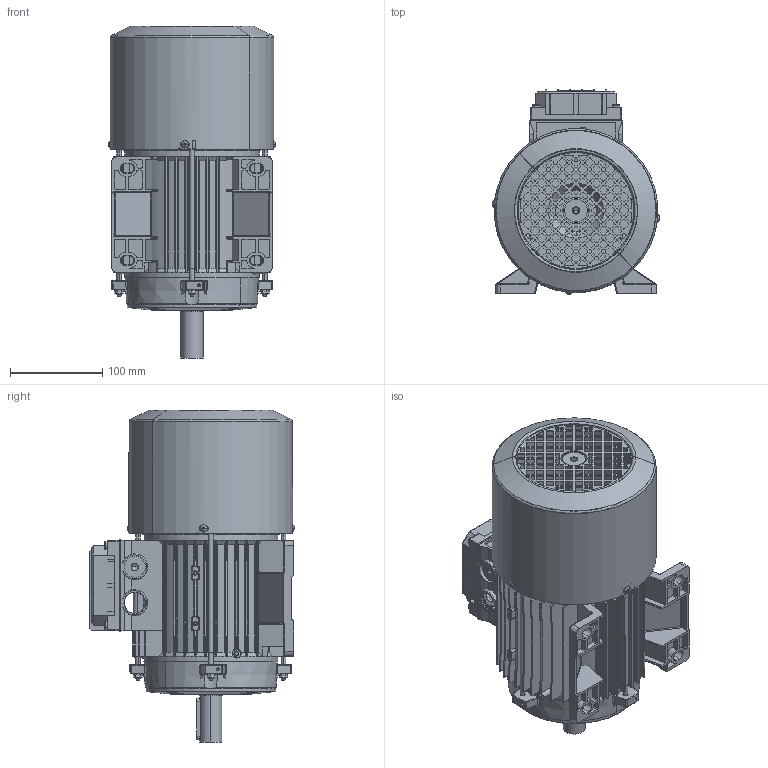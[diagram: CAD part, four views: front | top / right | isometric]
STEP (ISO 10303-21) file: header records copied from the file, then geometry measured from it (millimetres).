
FILE_DESCRIPTION (( 'STEP AP214' ), '1' );
FILE_NAME ('M14EA0013.STEP', '2019-09-06T07:25:23', ( '' ), ( '' ), 'SwSTEP 2.0', 'SolidWorks 2018', '' );
FILE_SCHEMA (( 'AUTOMOTIVE_DESIGN' ));
Length unit declared in the file: millimetre
Products named in the file (14): Dado M5; Tirante SM 90S; Chiavetta 90; Albero BM 90 S; Cuffia BM 90- DDAS0197; Scudo Lato Freno BM 90 P1; Scudo Lato Comando B3 BA-BM 90 - DDAD0094; Carcassa 90 S B3; M14EA0013; Coperchio per Scatola Singola 90 - 100 - 112 con viti; Guarnizione Coperchio Semplice Scatola BA 90 100 112 - DDAL0094; Vite  a testa bombata M4x16; Coperchio per Scatola Singola 90 - 100 - 112; Vite testa rotonda M3
Assembly tree (25 placements, depth 3):
  M14EA0013
    Carcassa 90 S B3
    Scudo Lato Comando B3 BA-BM 90 - DDAD0094
    Scudo Lato Freno BM 90 P1
    Cuffia BM 90- DDAS0197
    Albero BM 90 S
    Chiavetta 90
    Tirante SM 90S  x4
    Dado M5  x4
    Vite testa rotonda M3  x4
    Coperchio per Scatola Singola 90 - 100 - 112 con viti
      Coperchio per Scatola Singola 90 - 100 - 112
      Vite  a testa bombata M4x16  x4
      Guarnizione Coperchio Semplice Scatola BA 90 100 112 - DDAL0094
Bounding box: 181.66 x 222.33 x 360.5 mm (x, y, z)
Volume: 1195205.4 mm3; surface area: 745352.8 mm2
Topology: 28 solids, 28 shells, 4168 faces, 11252 edges, 7177 vertices
Faces by surface type: plane 1592, cylinder 1467, bspline 408, torus 350, cone 329, sphere 22
Entity records: 138157 total; most frequent: CARTESIAN_POINT 47064, ORIENTED_EDGE 20046, DIRECTION 17274, EDGE_CURVE 10023, VERTEX_POINT 6445, AXIS2_PLACEMENT_3D 6339, LINE 4596, VECTOR 4596
